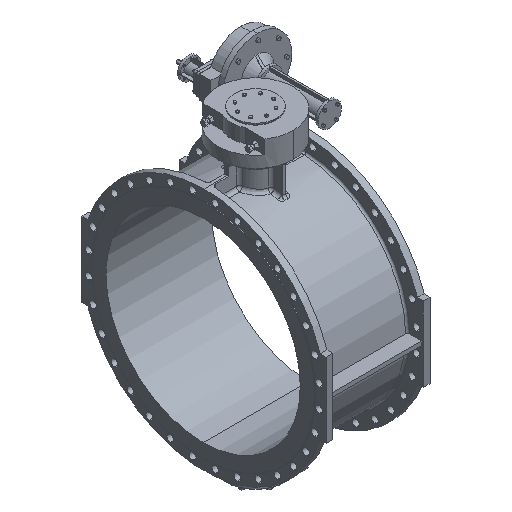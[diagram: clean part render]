
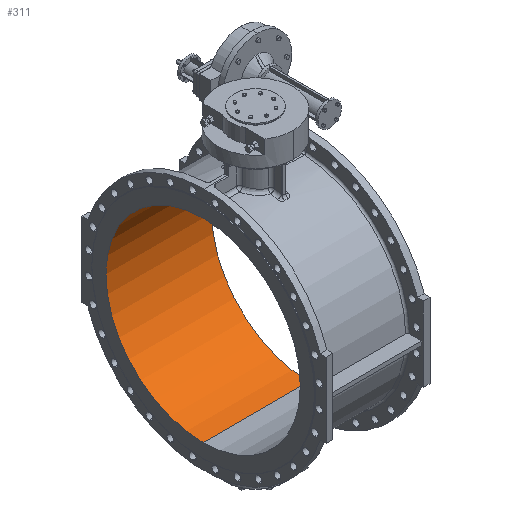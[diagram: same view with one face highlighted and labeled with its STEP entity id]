
A CAD part, isometric view. The second image highlights one B-rep face of the part: STEP entity #311.
In plain terms, the highlighted cylindrical face has radius 579 mm (diameter 1158 mm), a partial arc.
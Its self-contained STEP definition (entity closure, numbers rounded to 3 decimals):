
#311 = ADVANCED_FACE ( 'Defeatured_0_645', ( #17839 ), #27480, .F. ) ;
#1428 = AXIS2_PLACEMENT_3D ( 'NONE', #5098, #14895, #22896 ) ;
#1773 = CARTESIAN_POINT ( 'NONE',  ( -315., 0., 579. ) ) ;
#2704 = VERTEX_POINT ( 'NONE', #26538 ) ;
#3801 = ORIENTED_EDGE ( 'NONE', *, *, #5637, .F. ) ;
#5098 = CARTESIAN_POINT ( 'NONE',  ( 315., 0., 0. ) ) ;
#5104 = CARTESIAN_POINT ( 'NONE',  ( -315., 0., 0. ) ) ;
#5423 = LINE ( 'NONE', #10319, #21496 ) ;
#5637 = EDGE_CURVE ( 'NONE', #32327, #2704, #5423, .T. ) ;
#6496 = EDGE_CURVE ( 'Defeatured_0_645+Defeatured_0_141+Defeatured_0_141+Defeatured_0_141', #32327, #19928, #23749, .T. ) ;
#6722 = EDGE_CURVE ( 'NONE', #19928, #13563, #8377, .T. ) ;
#8377 = LINE ( 'NONE', #20757, #31580 ) ;
#10319 = CARTESIAN_POINT ( 'NONE',  ( 0., 0., 579. ) ) ;
#10431 = ORIENTED_EDGE ( 'NONE', *, *, #6496, .T. ) ;
#10649 = CARTESIAN_POINT ( 'NONE',  ( 0., 0., 0. ) ) ;
#12611 = DIRECTION ( 'NONE',  ( 0., 0., 1. ) ) ;
#13563 = VERTEX_POINT ( 'NONE', #26118 ) ;
#14895 = DIRECTION ( 'NONE',  ( -1., 0., 0. ) ) ;
#15373 = DIRECTION ( 'NONE',  ( 1., 0., 0. ) ) ;
#17354 = DIRECTION ( 'NONE',  ( -1., 0., 0. ) ) ;
#17839 = FACE_OUTER_BOUND ( 'NONE', #22980, .T. ) ;
#19928 = VERTEX_POINT ( 'NONE', #32085 ) ;
#20110 = DIRECTION ( 'NONE',  ( 0., 0., -1. ) ) ;
#20276 = DIRECTION ( 'NONE',  ( 1., 0., 0. ) ) ;
#20757 = CARTESIAN_POINT ( 'NONE',  ( 0., 0., -579. ) ) ;
#21496 = VECTOR ( 'NONE', #15373, 1000. ) ;
#22279 = ORIENTED_EDGE ( 'NONE', *, *, #25841, .F. ) ;
#22896 = DIRECTION ( 'NONE',  ( 0., 0., 1. ) ) ;
#22980 = EDGE_LOOP ( 'NONE', ( #3801, #10431, #23790, #22279 ) ) ;
#23749 = CIRCLE ( 'NONE', #24785, 579. ) ;
#23790 = ORIENTED_EDGE ( 'NONE', *, *, #6722, .T. ) ;
#24785 = AXIS2_PLACEMENT_3D ( 'NONE', #5104, #17354, #12611 ) ;
#25192 = DIRECTION ( 'NONE',  ( 1., 0., 0. ) ) ;
#25841 = EDGE_CURVE ( 'Defeatured_0_146+Defeatured_0_645+Defeatured_0_645+Defeatured_0_645', #2704, #13563, #29590, .T. ) ;
#26118 = CARTESIAN_POINT ( 'NONE',  ( 315., 0., -579. ) ) ;
#26538 = CARTESIAN_POINT ( 'NONE',  ( 315., 0., 579. ) ) ;
#27480 = CYLINDRICAL_SURFACE ( 'NONE', #30986, 579. ) ;
#29590 = CIRCLE ( 'NONE', #1428, 579. ) ;
#30986 = AXIS2_PLACEMENT_3D ( 'NONE', #10649, #25192, #20110 ) ;
#31580 = VECTOR ( 'NONE', #20276, 1000. ) ;
#32085 = CARTESIAN_POINT ( 'NONE',  ( -315., 0., -579. ) ) ;
#32327 = VERTEX_POINT ( 'NONE', #1773 ) ;
